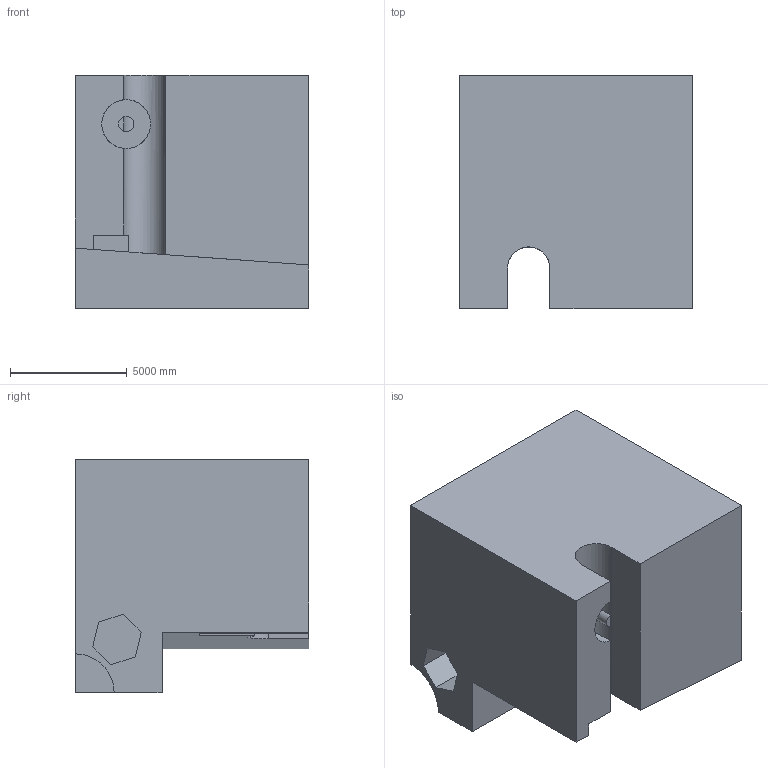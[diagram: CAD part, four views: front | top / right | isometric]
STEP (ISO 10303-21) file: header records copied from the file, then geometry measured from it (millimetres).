
FILE_DESCRIPTION (( 'STEP AP203' ), '1' );
FILE_NAME ('701.STEP', '2022-08-04T15:38:55', ( 'user' ), ( '' ), 'SwSTEP 2.0', 'SolidWorks 2021', '' );
FILE_SCHEMA (( 'CONFIG_CONTROL_DESIGN' ));
Length unit declared in the file: centimetre
Products named in the file (1): 701
Bounding box: 10000 x 10000 x 10000 mm (x, y, z)
Volume: 760618532511.2 mm3; surface area: 701384960.1 mm2
Topology: 1 solids, 1 shells, 42 faces, 111 edges, 74 vertices
Faces by surface type: plane 34, cylinder 8
Entity records: 1733 total; most frequent: CARTESIAN_POINT 612, ORIENTED_EDGE 222, DIRECTION 202, EDGE_CURVE 111, LINE 92, VECTOR 92, VERTEX_POINT 74, AXIS2_PLACEMENT_3D 55
